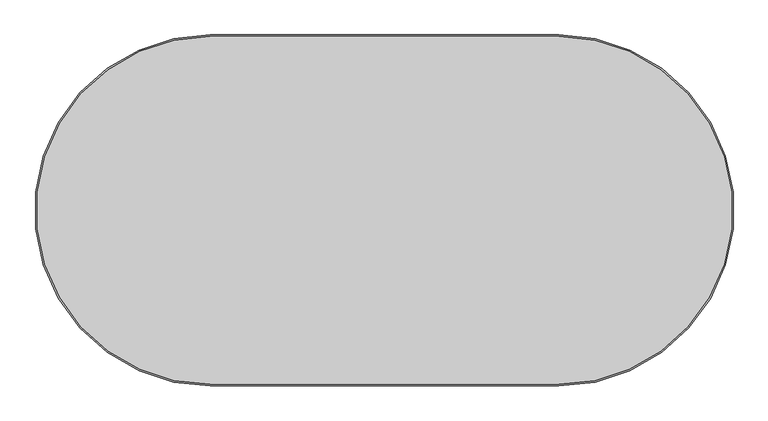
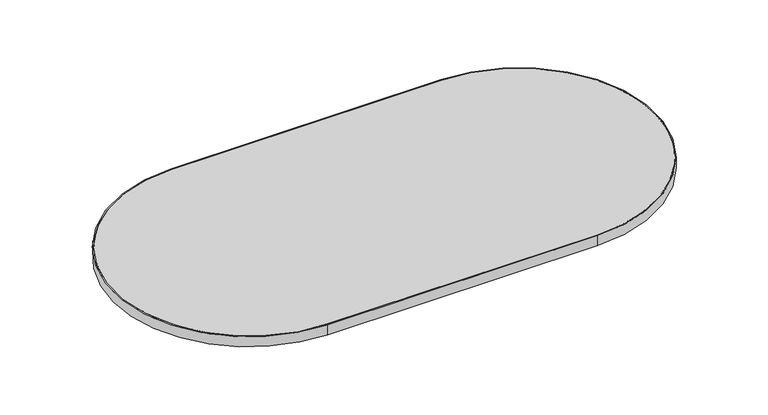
"""IFC4 building model written with IfcOpenShell, lengths in millimetres: furniture geometry, Steelcase - Answer Solution - Universal Table - Capsule - 3mm Edge : 30D x 60W."""

from ifc_helpers import new_model, si_unit, point, frame, frame_2d, origin, place, context, project, spatial, polyline, circle_curve, trimmed, segment, composite_curve, outline, extrude, source, transform, mapped, element, save


def furniture_4a9a059a(model_context):
    return source(origin(), model_context, "Body", "SweptSolid", [
        extrude(outline(composite_curve([segment(trimmed(circle_curve(frame_2d((381.0, 0.0)), 384.0), [point((381.0, 384.0))], [point((381.0, -384.0))], False, "CARTESIAN"), True, "CONTINUOUS"), segment(polyline([(381.0, -384.0), (-381.0, -384.0)]), True, "CONTINUOUS"), segment(trimmed(circle_curve(frame_2d((-381.0, 0.0)), 384.0), [point((-381.0, -384.0))], [point((-381.0, 384.0))], False, "CARTESIAN"), True, "CONTINUOUS"), segment(polyline([(-381.0, 384.0), (381.0, 384.0)]), True, "CONTINUOUS")], self_intersect=False), holes=[composite_curve([segment(trimmed(circle_curve(frame_2d((-381.0, 0.0)), 381.0), [point((-381.0, 381.0))], [point((-381.0, -381.0))], True, "CARTESIAN"), True, "CONTINUOUS"), segment(polyline([(-381.0, -381.0), (381.0, -381.0)]), True, "CONTINUOUS"), segment(trimmed(circle_curve(frame_2d((381.0, 0.0)), 381.0), [point((381.0, -381.0))], [point((381.0, 381.0))], True, "CARTESIAN"), True, "CONTINUOUS"), segment(polyline([(381.0, 381.0), (-381.0, 381.0)]), True, "CONTINUOUS")], self_intersect=False)]), frame((0.0, 0.0, 668.274), z_axis=(0.0, 0.0, 1.0), x_axis=(1.0, 0.0, 0.0)), (0.0, 0.0, 1.0), 30.0990349),
        extrude(outline(composite_curve([segment(polyline([(-381.0, 381.0), (381.0, 381.0)]), True, "CONTINUOUS"), segment(trimmed(circle_curve(frame_2d((381.0, 0.0)), 381.0), [point((381.0, 381.0))], [point((381.0, -381.0))], False, "CARTESIAN"), True, "CONTINUOUS"), segment(polyline([(381.0, -381.0), (-381.0, -381.0)]), True, "CONTINUOUS"), segment(trimmed(circle_curve(frame_2d((-381.0, 0.0)), 381.0), [point((-381.0, -381.0))], [point((-381.0, 381.0))], False, "CARTESIAN"), True, "CONTINUOUS")], self_intersect=False)), frame((0.0, 0.0, 668.274), z_axis=(0.0, 0.0, 1.0), x_axis=(1.0, 0.0, 0.0)), (0.0, 0.0, 1.0), 30.0990349),
    ])


if __name__ == "__main__":
    model = new_model("IFC4")
    model_context = context("Model", 3, world=origin())
    ifc_project = project(units=[si_unit("LENGTHUNIT", "METRE", prefix="MILLI")], contexts=[model_context])
    site = spatial("IfcSite", under=ifc_project)
    building = spatial("IfcBuilding", under=site)
    placement = place(None, origin())
    furniture_shape = furniture_4a9a059a(model_context)
    element("IfcFurniture", 1, ObjectType="Steelcase - Answer Solution - Universal Table - Capsule - 3mm Edge : 30D x 60W", at=placement, inside=building, context=model_context, shape_type="MappedRepresentation", body=[
        mapped(furniture_shape, transform((0.0, 0.0, 0.0), x_axis=(1.0, 0.0, 0.0), y_axis=(0.0, 1.0, 0.0), z_axis=(0.0, 0.0, 1.0))),
    ])
    save(model, "model.ifc")
